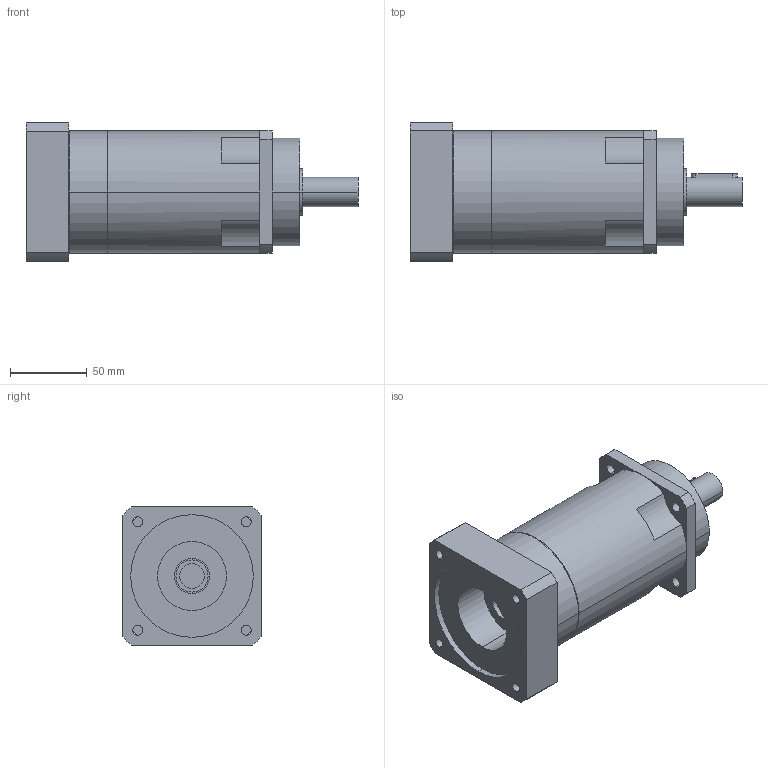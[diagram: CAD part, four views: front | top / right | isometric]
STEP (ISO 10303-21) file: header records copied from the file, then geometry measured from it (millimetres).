
FILE_DESCRIPTION(('CoCreate Modeling STEP Export'),'2;1');
FILE_NAME('GPR100_ig-48-64-80-100-120-144-180-216_19_B5_16_P28.stp','2014-08-26T11:55:54',(''),(''),'CoCreate Modeling STEP processor for AP214 (Solid Model)','CoCreate Modeling 16.00C 25-Feb-2009 (C) Parametric Technology GmbH','');
FILE_SCHEMA(('AUTOMOTIVE_DESIGN { 1 0 10303 214 1 1 1 1 }'));
Length unit declared in the file: millimetre
Products named in the file (2): GPR100_ig-48-64-80-100-120-144-180-216_19_B5_16_P28
Assembly tree (1 placements, depth 2):
  GPR100_ig-48-64-80-100-120-144-180-216_19_B5_16_P28
    GPR100_ig-48-64-80-100-120-144-180-216_19_B5_16_P28
Bounding box: 216.4 x 90 x 90 mm (x, y, z)
Volume: 905495.8 mm3; surface area: 78849.7 mm2
Topology: 1 solids, 1 shells, 89 faces, 246 edges, 168 vertices
Faces by surface type: cylinder 52, plane 31, cone 6
Entity records: 2607 total; most frequent: ORIENTED_EDGE 488, CARTESIAN_POINT 473, DIRECTION 386, EDGE_CURVE 244, VERTEX_POINT 168, AXIS2_PLACEMENT_3D 145, EDGE_LOOP 116, VECTOR 96
